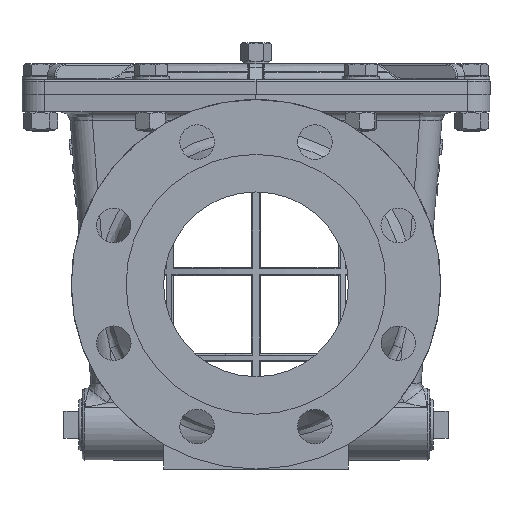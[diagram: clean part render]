
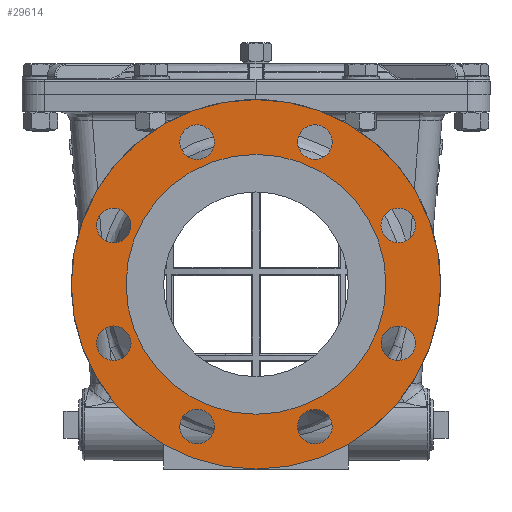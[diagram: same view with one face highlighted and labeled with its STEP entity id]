
A CAD part, left-side view. The second image highlights one B-rep face of the part: STEP entity #29614.
In plain terms, the highlighted planar face has unit normal (-1, 0, 0).
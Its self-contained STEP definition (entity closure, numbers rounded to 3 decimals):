
#1082=CIRCLE($,#31072,150.);
#1227=CIRCLE($,#31411,14.);
#1228=CIRCLE($,#31413,14.);
#1229=CIRCLE($,#31415,14.);
#1230=CIRCLE($,#31417,14.);
#1231=CIRCLE($,#31419,14.);
#1232=CIRCLE($,#31421,14.);
#1233=CIRCLE($,#31423,14.);
#1234=CIRCLE($,#31425,14.);
#1269=CIRCLE($,#31521,105.5);
#3130=FACE_BOUND($,#6413,.T.);
#3131=FACE_BOUND($,#6414,.T.);
#3132=FACE_BOUND($,#6415,.T.);
#3133=FACE_BOUND($,#6416,.T.);
#3134=FACE_BOUND($,#6417,.T.);
#3135=FACE_BOUND($,#6418,.T.);
#3136=FACE_BOUND($,#6419,.T.);
#3137=FACE_BOUND($,#6420,.T.);
#3138=FACE_BOUND($,#6421,.T.);
#3139=FACE_BOUND($,#6422,.T.);
#6413=EDGE_LOOP($,(#25585));
#6414=EDGE_LOOP($,(#25586));
#6415=EDGE_LOOP($,(#25587));
#6416=EDGE_LOOP($,(#25588));
#6417=EDGE_LOOP($,(#25589));
#6418=EDGE_LOOP($,(#25590));
#6419=EDGE_LOOP($,(#25591));
#6420=EDGE_LOOP($,(#25592));
#6421=EDGE_LOOP($,(#25593));
#6422=EDGE_LOOP($,(#25594));
#13523=VERTEX_POINT($,#52849);
#13809=VERTEX_POINT($,#56026);
#13810=VERTEX_POINT($,#56029);
#13811=VERTEX_POINT($,#56032);
#13812=VERTEX_POINT($,#56035);
#13813=VERTEX_POINT($,#56038);
#13814=VERTEX_POINT($,#56041);
#13815=VERTEX_POINT($,#56044);
#13816=VERTEX_POINT($,#56047);
#13858=VERTEX_POINT($,#57830);
#17267=EDGE_CURVE($,#13523,#13523,#1082,.T.);
#17741=EDGE_CURVE($,#13809,#13809,#1227,.T.);
#17742=EDGE_CURVE($,#13810,#13810,#1228,.T.);
#17743=EDGE_CURVE($,#13811,#13811,#1229,.T.);
#17744=EDGE_CURVE($,#13812,#13812,#1230,.T.);
#17745=EDGE_CURVE($,#13813,#13813,#1231,.T.);
#17746=EDGE_CURVE($,#13814,#13814,#1232,.T.);
#17747=EDGE_CURVE($,#13815,#13815,#1233,.T.);
#17748=EDGE_CURVE($,#13816,#13816,#1234,.T.);
#17849=EDGE_CURVE($,#13858,#13858,#1269,.T.);
#25585=ORIENTED_EDGE($,*,*,#17741,.T.);
#25586=ORIENTED_EDGE($,*,*,#17742,.T.);
#25587=ORIENTED_EDGE($,*,*,#17743,.T.);
#25588=ORIENTED_EDGE($,*,*,#17744,.T.);
#25589=ORIENTED_EDGE($,*,*,#17745,.T.);
#25590=ORIENTED_EDGE($,*,*,#17746,.T.);
#25591=ORIENTED_EDGE($,*,*,#17747,.T.);
#25592=ORIENTED_EDGE($,*,*,#17748,.T.);
#25593=ORIENTED_EDGE($,*,*,#17267,.F.);
#25594=ORIENTED_EDGE($,*,*,#17849,.T.);
#28080=PLANE($,#31520);
#29614=ADVANCED_FACE($,(#3130,#3131,#3132,#3133,#3134,#3135,#3136,#3137,
#3138,#3139),#28080,.T.);
#31072=AXIS2_PLACEMENT_3D($,#52850,#36341,#36342);
#31411=AXIS2_PLACEMENT_3D($,#56027,#37204,#37205);
#31413=AXIS2_PLACEMENT_3D($,#56030,#37208,#37209);
#31415=AXIS2_PLACEMENT_3D($,#56033,#37212,#37213);
#31417=AXIS2_PLACEMENT_3D($,#56036,#37216,#37217);
#31419=AXIS2_PLACEMENT_3D($,#56039,#37220,#37221);
#31421=AXIS2_PLACEMENT_3D($,#56042,#37224,#37225);
#31423=AXIS2_PLACEMENT_3D($,#56045,#37228,#37229);
#31425=AXIS2_PLACEMENT_3D($,#56048,#37232,#37233);
#31520=AXIS2_PLACEMENT_3D($,#57829,#37449,#37450);
#31521=AXIS2_PLACEMENT_3D($,#57831,#37451,#37452);
#36341=DIRECTION('center_axis',(1.,0.,0.));
#36342=DIRECTION('ref_axis',(0.,1.,0.));
#37204=DIRECTION('center_axis',(1.,0.,0.));
#37205=DIRECTION('ref_axis',(0.,0.707,0.707));
#37208=DIRECTION('center_axis',(1.,0.,0.));
#37209=DIRECTION('ref_axis',(0.,1.,0.));
#37212=DIRECTION('center_axis',(1.,0.,0.));
#37213=DIRECTION('ref_axis',(0.,0.707,-0.707));
#37216=DIRECTION('center_axis',(1.,0.,0.));
#37217=DIRECTION('ref_axis',(0.,0.,
-1.));
#37220=DIRECTION('center_axis',(1.,0.,0.));
#37221=DIRECTION('ref_axis',(0.,-0.707,-0.707));
#37224=DIRECTION('center_axis',(1.,0.,0.));
#37225=DIRECTION('ref_axis',(0.,-1.,0.));
#37228=DIRECTION('center_axis',(1.,0.,0.));
#37229=DIRECTION('ref_axis',(0.,-0.707,0.707));
#37232=DIRECTION('center_axis',(1.,0.,0.));
#37233=DIRECTION('ref_axis',(0.,0.,1.));
#37449=DIRECTION('center_axis',(-1.,0.,0.));
#37450=DIRECTION('ref_axis',(0.,0.,1.));
#37451=DIRECTION('center_axis',(1.,0.,0.));
#37452=DIRECTION('ref_axis',(0.,1.,0.));
#52849=CARTESIAN_POINT('',(-197.,150.,0.));
#52850=CARTESIAN_POINT('Origin',(-197.,0.,0.));
#56026=CARTESIAN_POINT('',(-197.,-105.585,-37.936));
#56027=CARTESIAN_POINT('Origin',(-197.,-115.485,-47.835));
#56029=CARTESIAN_POINT('',(-197.,-101.485,47.835));
#56030=CARTESIAN_POINT('Origin',(-197.,-115.485,47.835));
#56032=CARTESIAN_POINT('',(-197.,-37.936,105.585));
#56033=CARTESIAN_POINT('Origin',(-197.,-47.835,115.485));
#56035=CARTESIAN_POINT('',(-197.,47.835,101.485));
#56036=CARTESIAN_POINT('Origin',(-197.,47.835,115.485));
#56038=CARTESIAN_POINT('',(-197.,105.585,37.936));
#56039=CARTESIAN_POINT('Origin',(-197.,115.485,47.835));
#56041=CARTESIAN_POINT('',(-197.,101.485,-47.835));
#56042=CARTESIAN_POINT('Origin',(-197.,115.485,-47.835));
#56044=CARTESIAN_POINT('',(-197.,37.936,-105.585));
#56045=CARTESIAN_POINT('Origin',(-197.,47.835,-115.485));
#56047=CARTESIAN_POINT('',(-197.,-47.835,-101.485));
#56048=CARTESIAN_POINT('Origin',(-197.,-47.835,-115.485));
#57829=CARTESIAN_POINT('Origin',(-197.,127.75,0.));
#57830=CARTESIAN_POINT('',(-197.,105.5,0.));
#57831=CARTESIAN_POINT('Origin',(-197.,0.,0.));
